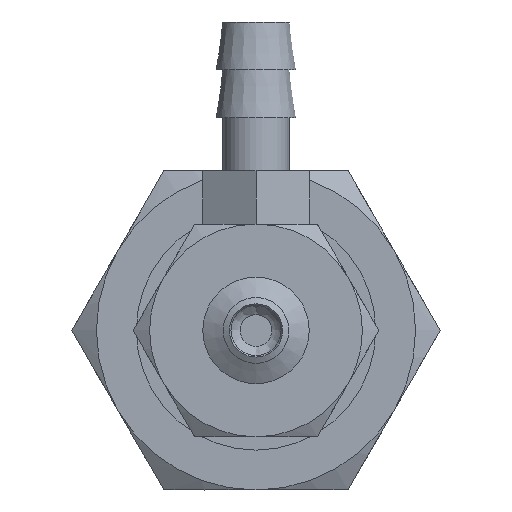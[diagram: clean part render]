
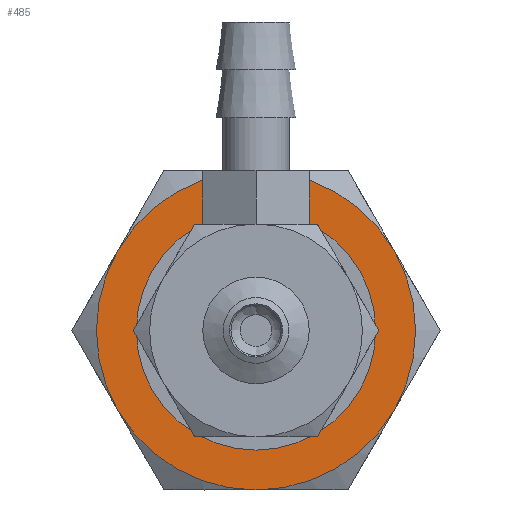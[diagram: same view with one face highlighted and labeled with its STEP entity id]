
A CAD part, front view. The second image highlights one B-rep face of the part: STEP entity #485.
In plain terms, the highlighted planar face has unit normal (0, -1, 0) as drawn and (-1, 0, 0) by its records, which use the part's own axes.
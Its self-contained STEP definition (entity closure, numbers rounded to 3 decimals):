
#485=ADVANCED_FACE('',(#655,#656),#657,.F.);
#655=FACE_BOUND('',#982,.T.);
#656=FACE_OUTER_BOUND('',#983,.T.);
#657=PLANE('',#984);
#982=EDGE_LOOP('',(#1477));
#983=EDGE_LOOP('',(#1478,#1479,#1480,#1481,#1482,#1483));
#984=AXIS2_PLACEMENT_3D('',#1484,#1485,#1486);
#1477=ORIENTED_EDGE('',*,*,#2214,.T.);
#1478=ORIENTED_EDGE('',*,*,#2215,.F.);
#1479=ORIENTED_EDGE('',*,*,#2196,.F.);
#1480=ORIENTED_EDGE('',*,*,#2194,.F.);
#1481=ORIENTED_EDGE('',*,*,#2182,.F.);
#1482=ORIENTED_EDGE('',*,*,#2181,.F.);
#1483=ORIENTED_EDGE('',*,*,#2213,.F.);
#1484=CARTESIAN_POINT('',(0.,0.0,0.0));
#1485=DIRECTION('',(1.0,0.0,0.0));
#1486=DIRECTION('',(0.0,1.0,0.0));
#2181=EDGE_CURVE('',#2442,#2445,#2447,.T.);
#2182=EDGE_CURVE('',#2445,#2448,#2449,.T.);
#2194=EDGE_CURVE('',#2448,#2465,#2468,.T.);
#2196=EDGE_CURVE('',#2465,#2470,#2471,.T.);
#2213=EDGE_CURVE('',#2491,#2442,#2496,.T.);
#2214=EDGE_CURVE('',#2497,#2497,#2498,.T.);
#2215=EDGE_CURVE('',#2470,#2491,#2499,.T.);
#2442=VERTEX_POINT('',#2912);
#2445=VERTEX_POINT('',#2935);
#2447=CIRCLE('',#2947,6.0);
#2448=VERTEX_POINT('',#2948);
#2449=CIRCLE('',#2949,6.0);
#2465=VERTEX_POINT('',#3018);
#2468=CIRCLE('',#3041,6.0);
#2470=VERTEX_POINT('',#3053);
#2471=CIRCLE('',#3054,6.0);
#2491=VERTEX_POINT('',#3135);
#2496=CIRCLE('',#3160,6.0);
#2497=VERTEX_POINT('',#3161);
#2498=CIRCLE('',#3162,4.0);
#2499=CIRCLE('',#3163,6.0);
#2912=CARTESIAN_POINT('',(0.,0.0,6.0));
#2935=CARTESIAN_POINT('',(0.,-5.196,3.0));
#2947=AXIS2_PLACEMENT_3D('',#3690,#3691,#3692);
#2948=CARTESIAN_POINT('',(0.,-5.196,-3.0));
#2949=AXIS2_PLACEMENT_3D('',#3693,#3694,#3695);
#3018=CARTESIAN_POINT('',(0.,0.0,-6.0));
#3041=AXIS2_PLACEMENT_3D('',#3702,#3703,#3704);
#3053=CARTESIAN_POINT('',(0.,5.196,-3.0));
#3054=AXIS2_PLACEMENT_3D('',#3705,#3706,#3707);
#3135=CARTESIAN_POINT('',(0.,5.196,3.0));
#3160=AXIS2_PLACEMENT_3D('',#3730,#3731,#3732);
#3161=CARTESIAN_POINT('',(0.,0.0,-4.0));
#3162=AXIS2_PLACEMENT_3D('',#3733,#3734,#3735);
#3163=AXIS2_PLACEMENT_3D('',#3736,#3737,#3738);
#3690=CARTESIAN_POINT('',(0.,0.0,0.0));
#3691=DIRECTION('',(1.0,0.0,0.0));
#3692=DIRECTION('',(0.0,0.0,-1.0));
#3693=CARTESIAN_POINT('',(0.,0.0,0.0));
#3694=DIRECTION('',(1.0,0.0,0.0));
#3695=DIRECTION('',(0.0,0.0,-1.0));
#3702=CARTESIAN_POINT('',(0.,0.0,0.0));
#3703=DIRECTION('',(1.0,0.0,0.0));
#3704=DIRECTION('',(0.0,0.0,-1.0));
#3705=CARTESIAN_POINT('',(0.,0.0,0.0));
#3706=DIRECTION('',(1.0,0.0,0.0));
#3707=DIRECTION('',(0.0,0.0,-1.0));
#3730=CARTESIAN_POINT('',(0.,0.0,0.0));
#3731=DIRECTION('',(1.0,0.0,0.0));
#3732=DIRECTION('',(0.0,0.0,-1.0));
#3733=CARTESIAN_POINT('',(0.,0.0,0.0));
#3734=DIRECTION('',(1.0,0.0,0.0));
#3735=DIRECTION('',(0.0,0.0,-1.0));
#3736=CARTESIAN_POINT('',(0.,0.0,0.0));
#3737=DIRECTION('',(1.0,0.0,0.0));
#3738=DIRECTION('',(0.0,0.0,-1.0));
